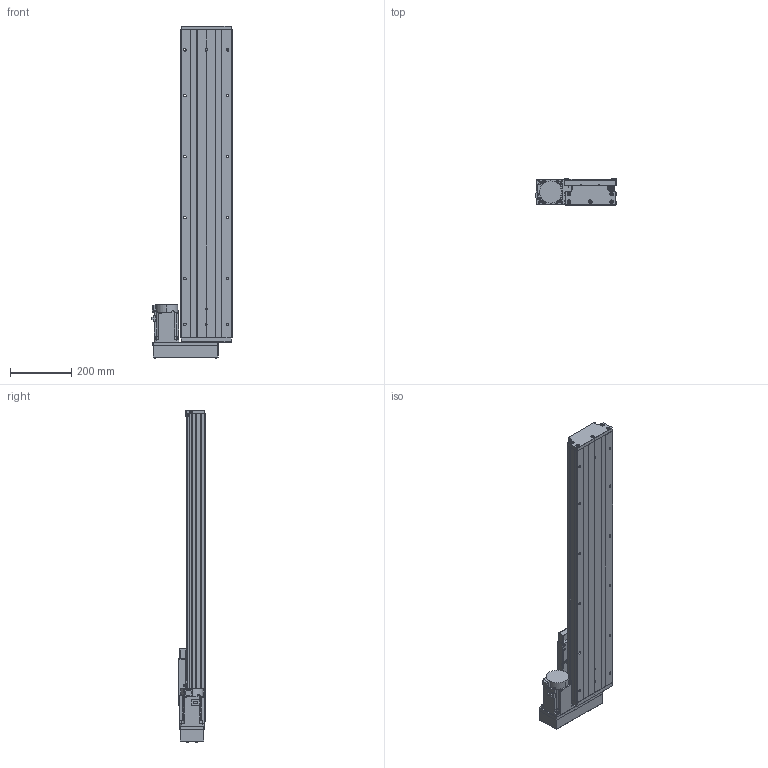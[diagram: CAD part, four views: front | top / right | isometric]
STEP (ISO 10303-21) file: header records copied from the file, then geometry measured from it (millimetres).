
FILE_DESCRIPTION (( 'STEP AP203' ), '1' );
FILE_NAME ('GTH17-750-BL-M75-C4.step', '2023-06-30T12:01:52', ( '微软用户' ), ( '微软中国' ), 'SwSTEP 2.0', 'SolidWorks 2020', '' );
FILE_SCHEMA (( 'CONFIG_CONTROL_DESIGN' ));
Length unit declared in the file: millimetre
Products named in the file (19): GBT 70.2-M4¡Á45_M4¡Á35; GTH17-004; GBT77-2000 M3×3; GTH17-015-2_CTHA86-015-2; GTH17-005; GBT 70.1-M6¡Á20_M6¡Á20; GTH17-033; GB1155-6X6; GTH17-031; GTH17-750-BL-M75-C4; CTHA60-017; GBT 70.2-M3¡Á5_M3¡Á6; EE_SX911P_R; す晦芛蹟隊 M3℅5; GTH17-001_750; CTHA60-016; HG-KN73J-S100; GTH17-002_GTH17-002; GBT 70.1-M3℅5
Assembly tree (58 placements, depth 2):
  GTH17-750-BL-M75-C4
    GTH17-001_750
    GTH17-002_GTH17-002
    GTH17-004
    GTH17-005
    GB1155-6X6  x2
    CTHA60-017  x3
    EE_SX911P_R  x3
    CTHA60-016  x2
    GBT 70.1-M3℅5  x6
    GBT77-2000 M3×3  x6
    GBT 70.1-M6¡Á20_M6¡Á20  x10
    GTH17-031
    GBT 70.2-M3¡Á5_M3¡Á6  x8
    す晦芛蹟隊 M3℅5  x6
    HG-KN73J-S100
    GBT 70.2-M4¡Á45_M4¡Á35  x4
    GTH17-015-2_CTHA86-015-2
    GTH17-033
Bounding box: 264.3 x 87 x 1088.2 mm (x, y, z)
Volume: 9075829.4 mm3; surface area: 1259226.1 mm2
Topology: 61 solids, 61 shells, 2449 faces, 5845 edges, 3619 vertices
Faces by surface type: plane 1310, cylinder 666, cone 297, torus 124, sphere 32, bspline 20
Entity records: 44738 total; most frequent: CARTESIAN_POINT 10366, DIRECTION 6481, ORIENTED_EDGE 6402, EDGE_CURVE 3201, AXIS2_PLACEMENT_3D 2212, VECTOR 2057, LINE 2057, VERTEX_POINT 2031
